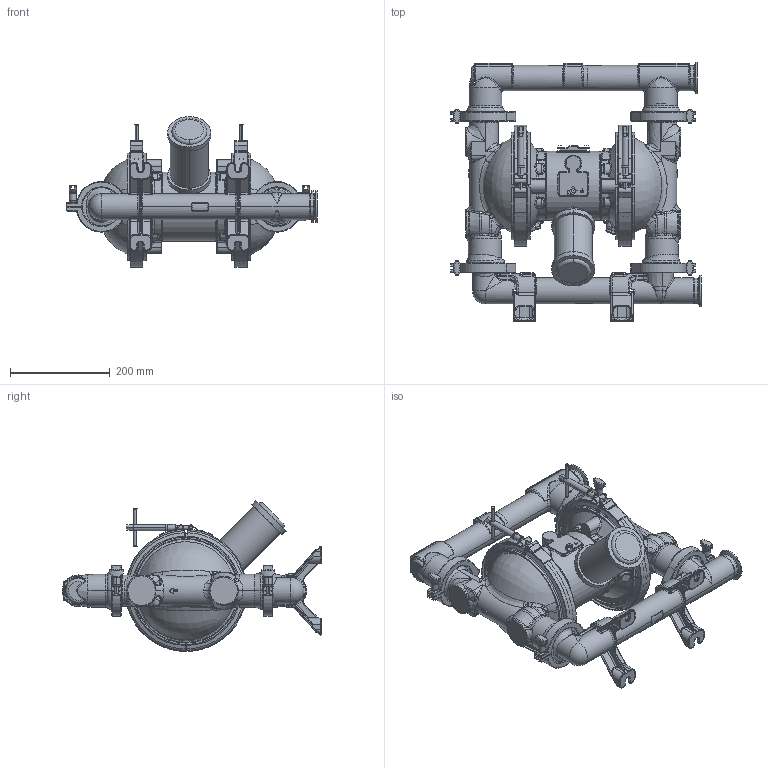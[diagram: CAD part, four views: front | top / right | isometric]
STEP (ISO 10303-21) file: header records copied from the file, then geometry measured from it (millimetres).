
FILE_DESCRIPTION((''),'2;1');
FILE_NAME('FD2111-EN-ZAE_PRT','2022-02-14T15:07:20',('qtmwp1'),(''),'CREO PARAMETRIC BY PTC INC, 2021072','CREO PARAMETRIC BY PTC INC, 2021072','');
FILE_SCHEMA(('CONFIG_CONTROL_DESIGN'));
Length unit declared in the file: inch
Products named in the file (1): FD2111-EN-ZAE_PRT
Bounding box: 502.96 x 521.61 x 302.81 mm (x, y, z)
Surface area: 1279783.9 mm2 (no closed solid volume)
Topology: 0 solids, 114 shells, 2086 faces, 6210 edges, 3972 vertices
Faces by surface type: cylinder 659, bspline 455, plane 441, torus 427, cone 87, extrusion 10, sphere 7
Entity records: 102962 total; most frequent: CARTESIAN_POINT 52388, ORIENTED_EDGE 10224, DIRECTION 10008, EDGE_CURVE 6209, AXIS2_PLACEMENT_3D 4046, VERTEX_POINT 3972, CIRCLE 2415, EDGE_LOOP 2086
